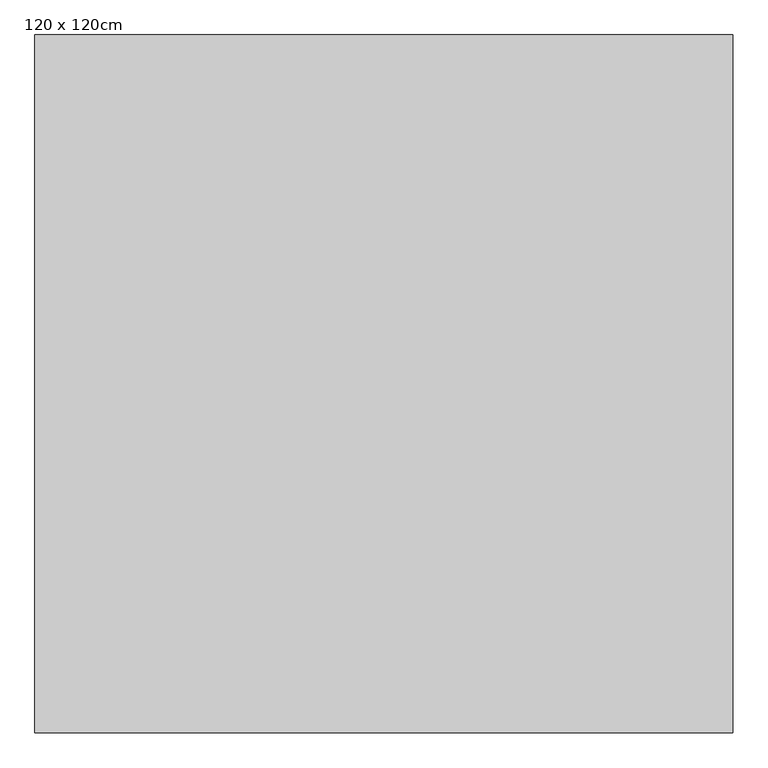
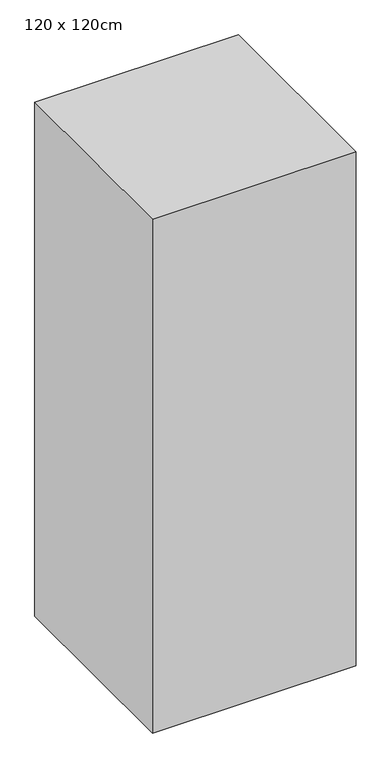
"""IFC4 building model written with IfcOpenShell, lengths in millimetres: column geometry, 混凝土柱-矩形 : 120 x 120cm."""

from ifc_helpers import new_model, si_unit, frame, origin, place, context, project, spatial, polyline, outline, extrude, source, transform, mapped, element, save


def column_120_x_120cm_3a74ff08(model_context):
    return source(origin(), model_context, "Body", "SweptSolid", [
        extrude(outline(polyline([(600.0, 600.0), (600.0, -600.0), (-600.0, -600.0), (-600.0, 600.0), (600.0, 600.0)])), frame((0.0, 0.0, -9600.0), z_axis=(0.0, 0.0, 1.0), x_axis=(1.0, 0.0, 0.0)), (0.0, 0.0, 1.0), 3200.0),
    ])


if __name__ == "__main__":
    model = new_model("IFC4")
    model_context = context("Model", 3, world=origin())
    ifc_project = project(units=[si_unit("LENGTHUNIT", "METRE", prefix="MILLI")], contexts=[model_context])
    site = spatial("IfcSite", under=ifc_project)
    building = spatial("IfcBuilding", under=site)
    placement = place(None, origin())
    column_120_x_120cm_shape = column_120_x_120cm_3a74ff08(model_context)
    element("IfcColumn", 1, ObjectType="混凝土柱-矩形 : 120 x 120cm", at=placement, inside=building, context=model_context, shape_type="MappedRepresentation", body=[
        mapped(column_120_x_120cm_shape, transform((0.0, 0.0, 0.0), x_axis=(1.0, 0.0, 0.0), y_axis=(0.0, 1.0, 0.0), z_axis=(0.0, 0.0, 1.0))),
    ])
    save(model, "model.ifc")
